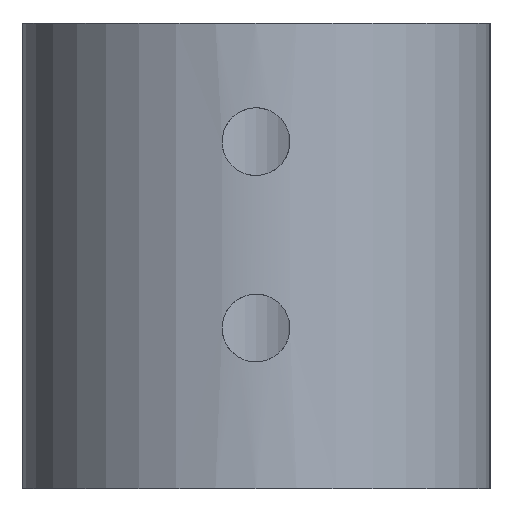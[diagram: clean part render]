
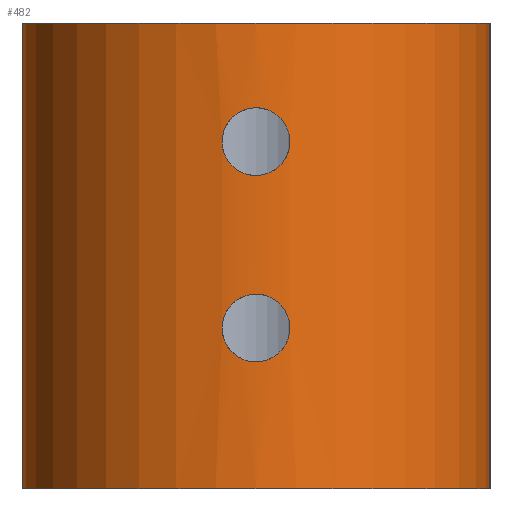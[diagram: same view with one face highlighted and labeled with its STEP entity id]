
A CAD part, left-side view. The second image highlights one B-rep face of the part: STEP entity #482.
In plain terms, the highlighted cylindrical face has radius 11.05 mm (diameter 22.1 mm), a partial arc.
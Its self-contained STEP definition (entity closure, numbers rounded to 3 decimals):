
#31=FACE_BOUND('',#188,.T.);
#32=FACE_BOUND('',#189,.T.);
#57=LINE('',#1186,#82);
#62=LINE('',#1197,#87);
#82=VECTOR('',#651,10.);
#87=VECTOR('',#662,10.);
#88=B_SPLINE_CURVE_WITH_KNOTS('',3,(#681,#682,#683,#684,#685,#686,#687,
#688,#689,#690,#691,#692,#693,#694,#695,#696,#697,#698,#699,#700,#701,#702,
#703,#704,#705,#706,#707,#708,#709,#710,#711,#712,#713,#714),
 .UNSPECIFIED.,.T.,.F.,(4,2,2,2,2,2,2,2,2,2,2,2,2,2,2,2,4),(0.,0.06,
0.121,0.181,0.241,0.302,
0.362,0.423,0.483,0.543,
0.604,0.664,0.724,0.785,
0.845,0.905,0.966),.UNSPECIFIED.);
#90=B_SPLINE_CURVE_WITH_KNOTS('',3,(#753,#754,#755,#756,#757,#758,#759,
#760,#761,#762,#763,#764,#765,#766,#767,#768,#769,#770,#771,#772,#773,#774,
#775,#776,#777,#778,#779,#780,#781,#782,#783,#784,#785,#786),
 .UNSPECIFIED.,.T.,.F.,(4,2,2,2,2,2,2,2,2,2,2,2,2,2,2,2,4),(0.,0.06,
0.121,0.181,0.241,0.302,
0.362,0.423,0.483,0.543,
0.604,0.664,0.724,0.785,
0.845,0.905,0.966),.UNSPECIFIED.);
#120=CYLINDRICAL_SURFACE('',#543,11.05);
#145=FACE_OUTER_BOUND('',#187,.T.);
#187=EDGE_LOOP('',(#434,#435,#436,#437));
#188=EDGE_LOOP('',(#438));
#189=EDGE_LOOP('',(#439));
#203=CIRCLE('',#517,11.05);
#217=CIRCLE('',#544,11.05);
#221=VERTEX_POINT('',#680);
#223=VERTEX_POINT('',#752);
#241=VERTEX_POINT('',#1136);
#242=VERTEX_POINT('',#1137);
#256=VERTEX_POINT('',#1185);
#259=VERTEX_POINT('',#1195);
#263=EDGE_CURVE('',#221,#221,#88,.T.);
#266=EDGE_CURVE('',#223,#223,#90,.T.);
#291=EDGE_CURVE('',#241,#242,#203,.T.);
#315=EDGE_CURVE('',#256,#242,#57,.T.);
#321=EDGE_CURVE('',#241,#259,#62,.T.);
#322=EDGE_CURVE('',#256,#259,#217,.T.);
#434=ORIENTED_EDGE('',*,*,#321,.T.);
#435=ORIENTED_EDGE('',*,*,#322,.F.);
#436=ORIENTED_EDGE('',*,*,#315,.T.);
#437=ORIENTED_EDGE('',*,*,#291,.F.);
#438=ORIENTED_EDGE('',*,*,#263,.T.);
#439=ORIENTED_EDGE('',*,*,#266,.T.);
#482=ADVANCED_FACE('',(#145,#31,#32),#120,.T.);
#517=AXIS2_PLACEMENT_3D('',#1138,#594,#595);
#543=AXIS2_PLACEMENT_3D('',#1198,#663,#664);
#544=AXIS2_PLACEMENT_3D('',#1199,#665,#666);
#594=DIRECTION('center_axis',(0.,0.,-1.));
#595=DIRECTION('ref_axis',(0.,1.,0.));
#651=DIRECTION('',(0.,0.,-1.));
#662=DIRECTION('',(0.,0.,1.));
#663=DIRECTION('center_axis',(0.,0.,1.));
#664=DIRECTION('ref_axis',(0.,1.,0.));
#665=DIRECTION('center_axis',(0.,0.,1.));
#666=DIRECTION('ref_axis',(0.,1.,0.));
#680=CARTESIAN_POINT('',(-36.018,-348.4,111.181));
#681=CARTESIAN_POINT('Ctrl Pts',(-36.018,-348.4,111.181));
#682=CARTESIAN_POINT('Ctrl Pts',(-36.018,-348.4,111.382));
#683=CARTESIAN_POINT('Ctrl Pts',(-36.025,-348.44,111.597));
#684=CARTESIAN_POINT('Ctrl Pts',(-36.047,-348.604,111.991));
#685=CARTESIAN_POINT('Ctrl Pts',(-36.062,-348.727,112.17));
#686=CARTESIAN_POINT('Ctrl Pts',(-36.091,-349.011,112.454));
#687=CARTESIAN_POINT('Ctrl Pts',(-36.107,-349.19,112.577));
#688=CARTESIAN_POINT('Ctrl Pts',(-36.129,-349.584,112.741));
#689=CARTESIAN_POINT('Ctrl Pts',(-36.135,-349.799,112.781));
#690=CARTESIAN_POINT('Ctrl Pts',(-36.135,-350.201,112.781));
#691=CARTESIAN_POINT('Ctrl Pts',(-36.129,-350.416,112.741));
#692=CARTESIAN_POINT('Ctrl Pts',(-36.107,-350.81,112.577));
#693=CARTESIAN_POINT('Ctrl Pts',(-36.091,-350.989,112.454));
#694=CARTESIAN_POINT('Ctrl Pts',(-36.062,-351.273,112.17));
#695=CARTESIAN_POINT('Ctrl Pts',(-36.047,-351.396,111.991));
#696=CARTESIAN_POINT('Ctrl Pts',(-36.025,-351.56,111.597));
#697=CARTESIAN_POINT('Ctrl Pts',(-36.018,-351.6,111.382));
#698=CARTESIAN_POINT('Ctrl Pts',(-36.018,-351.6,110.98));
#699=CARTESIAN_POINT('Ctrl Pts',(-36.025,-351.56,110.765));
#700=CARTESIAN_POINT('Ctrl Pts',(-36.047,-351.396,110.371));
#701=CARTESIAN_POINT('Ctrl Pts',(-36.062,-351.273,110.192));
#702=CARTESIAN_POINT('Ctrl Pts',(-36.091,-350.989,109.908));
#703=CARTESIAN_POINT('Ctrl Pts',(-36.107,-350.81,109.785));
#704=CARTESIAN_POINT('Ctrl Pts',(-36.129,-350.416,109.621));
#705=CARTESIAN_POINT('Ctrl Pts',(-36.135,-350.201,109.581));
#706=CARTESIAN_POINT('Ctrl Pts',(-36.135,-349.799,109.581));
#707=CARTESIAN_POINT('Ctrl Pts',(-36.129,-349.584,109.621));
#708=CARTESIAN_POINT('Ctrl Pts',(-36.107,-349.19,109.785));
#709=CARTESIAN_POINT('Ctrl Pts',(-36.091,-349.011,109.908));
#710=CARTESIAN_POINT('Ctrl Pts',(-36.062,-348.727,110.192));
#711=CARTESIAN_POINT('Ctrl Pts',(-36.047,-348.604,110.371));
#712=CARTESIAN_POINT('Ctrl Pts',(-36.025,-348.44,110.765));
#713=CARTESIAN_POINT('Ctrl Pts',(-36.018,-348.4,110.98));
#714=CARTESIAN_POINT('Ctrl Pts',(-36.018,-348.4,111.181));
#752=CARTESIAN_POINT('',(-36.018,-348.4,102.381));
#753=CARTESIAN_POINT('Ctrl Pts',(-36.018,-348.4,102.381));
#754=CARTESIAN_POINT('Ctrl Pts',(-36.018,-348.4,102.582));
#755=CARTESIAN_POINT('Ctrl Pts',(-36.025,-348.44,102.797));
#756=CARTESIAN_POINT('Ctrl Pts',(-36.047,-348.604,103.191));
#757=CARTESIAN_POINT('Ctrl Pts',(-36.062,-348.727,103.37));
#758=CARTESIAN_POINT('Ctrl Pts',(-36.091,-349.011,103.654));
#759=CARTESIAN_POINT('Ctrl Pts',(-36.107,-349.19,103.777));
#760=CARTESIAN_POINT('Ctrl Pts',(-36.129,-349.584,103.941));
#761=CARTESIAN_POINT('Ctrl Pts',(-36.135,-349.799,103.981));
#762=CARTESIAN_POINT('Ctrl Pts',(-36.135,-350.201,103.981));
#763=CARTESIAN_POINT('Ctrl Pts',(-36.129,-350.416,103.941));
#764=CARTESIAN_POINT('Ctrl Pts',(-36.107,-350.81,103.777));
#765=CARTESIAN_POINT('Ctrl Pts',(-36.091,-350.989,103.654));
#766=CARTESIAN_POINT('Ctrl Pts',(-36.062,-351.273,103.37));
#767=CARTESIAN_POINT('Ctrl Pts',(-36.047,-351.396,103.191));
#768=CARTESIAN_POINT('Ctrl Pts',(-36.025,-351.56,102.797));
#769=CARTESIAN_POINT('Ctrl Pts',(-36.018,-351.6,102.582));
#770=CARTESIAN_POINT('Ctrl Pts',(-36.018,-351.6,102.18));
#771=CARTESIAN_POINT('Ctrl Pts',(-36.025,-351.56,101.965));
#772=CARTESIAN_POINT('Ctrl Pts',(-36.047,-351.396,101.571));
#773=CARTESIAN_POINT('Ctrl Pts',(-36.062,-351.273,101.392));
#774=CARTESIAN_POINT('Ctrl Pts',(-36.091,-350.989,101.108));
#775=CARTESIAN_POINT('Ctrl Pts',(-36.107,-350.81,100.985));
#776=CARTESIAN_POINT('Ctrl Pts',(-36.129,-350.416,100.821));
#777=CARTESIAN_POINT('Ctrl Pts',(-36.135,-350.201,100.781));
#778=CARTESIAN_POINT('Ctrl Pts',(-36.135,-349.799,100.781));
#779=CARTESIAN_POINT('Ctrl Pts',(-36.129,-349.584,100.821));
#780=CARTESIAN_POINT('Ctrl Pts',(-36.107,-349.19,100.985));
#781=CARTESIAN_POINT('Ctrl Pts',(-36.091,-349.011,101.108));
#782=CARTESIAN_POINT('Ctrl Pts',(-36.062,-348.727,101.392));
#783=CARTESIAN_POINT('Ctrl Pts',(-36.047,-348.604,101.571));
#784=CARTESIAN_POINT('Ctrl Pts',(-36.025,-348.44,101.965));
#785=CARTESIAN_POINT('Ctrl Pts',(-36.018,-348.4,102.18));
#786=CARTESIAN_POINT('Ctrl Pts',(-36.018,-348.4,102.381));
#1136=CARTESIAN_POINT('',(-25.085,-361.05,94.781));
#1137=CARTESIAN_POINT('',(-25.085,-338.95,94.781));
#1138=CARTESIAN_POINT('Origin',(-25.085,-350.,94.781));
#1185=CARTESIAN_POINT('',(-25.085,-338.95,116.781));
#1186=CARTESIAN_POINT('',(-25.085,-338.95,96.781));
#1195=CARTESIAN_POINT('',(-25.085,-361.05,116.781));
#1197=CARTESIAN_POINT('',(-25.085,-361.05,96.781));
#1198=CARTESIAN_POINT('Origin',(-25.085,-350.,96.781));
#1199=CARTESIAN_POINT('Origin',(-25.085,-350.,116.781));
